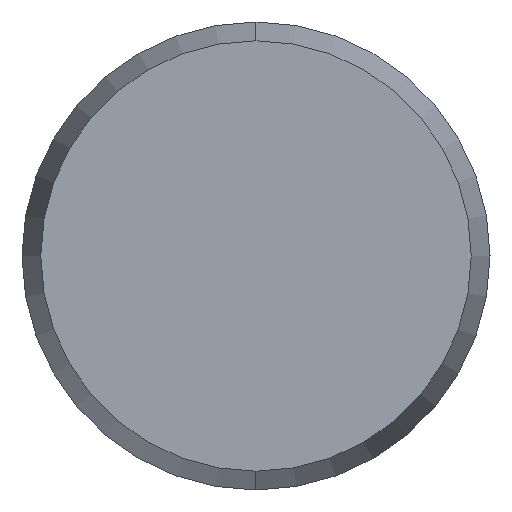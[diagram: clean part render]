
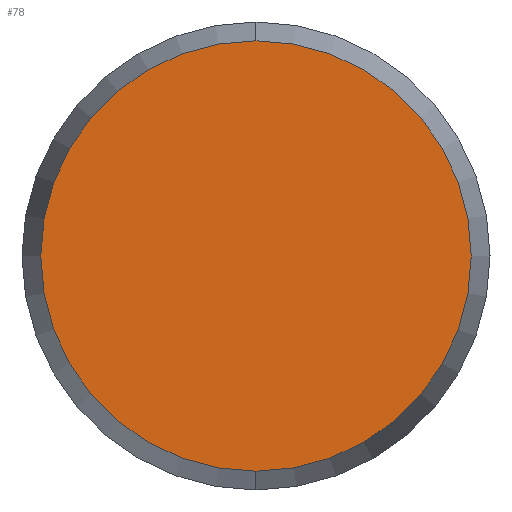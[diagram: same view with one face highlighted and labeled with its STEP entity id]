
A CAD part, left-side view. The second image highlights one B-rep face of the part: STEP entity #78.
In plain terms, the highlighted planar face has unit normal (-1, 0, 0).
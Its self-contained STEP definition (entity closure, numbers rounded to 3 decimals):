
#34 = CIRCLE ( 'NONE', #144, 4.598 ) ;
#63 = EDGE_CURVE ( 'NONE', #64, #65, #34, .T. ) ;
#64 = VERTEX_POINT ( 'NONE', #140 ) ;
#65 = VERTEX_POINT ( 'NONE', #139 ) ;
#78 = ADVANCED_FACE ( 'NONE', ( #122 ), #121, .F. ) ;
#79 = EDGE_LOOP ( 'NONE', ( #80, #81 ) ) ;
#80 = ORIENTED_EDGE ( 'NONE', *, *, #63, .F. ) ;
#81 = ORIENTED_EDGE ( 'NONE', *, *, #106, .F. ) ;
#106 = EDGE_CURVE ( 'NONE', #65, #64, #275, .T. ) ;
#116 = DIRECTION ( 'NONE',  ( 0., 0., -1. ) ) ;
#117 = DIRECTION ( 'NONE',  ( 1., 0., 0. ) ) ;
#118 = CARTESIAN_POINT ( 'NONE',  ( -16., 0., 0. ) ) ;
#120 = AXIS2_PLACEMENT_3D ( 'NONE', #118, #117, #116 ) ;
#121 = PLANE ( 'NONE',  #120 ) ;
#122 = FACE_OUTER_BOUND ( 'NONE', #79, .T. ) ;
#139 = CARTESIAN_POINT ( 'NONE',  ( -16., 0., -4.598 ) ) ;
#140 = CARTESIAN_POINT ( 'NONE',  ( -16., 0., 4.598 ) ) ;
#141 = DIRECTION ( 'NONE',  ( 0., 0., -1. ) ) ;
#142 = DIRECTION ( 'NONE',  ( 1., 0., 0. ) ) ;
#143 = CARTESIAN_POINT ( 'NONE',  ( -16., 0., 0. ) ) ;
#144 = AXIS2_PLACEMENT_3D ( 'NONE', #143, #142, #141 ) ;
#166 = CARTESIAN_POINT ( 'NONE',  ( -16., 0., 0. ) ) ;
#272 = DIRECTION ( 'NONE',  ( 0., 0., -1. ) ) ;
#273 = DIRECTION ( 'NONE',  ( 1., 0., 0. ) ) ;
#274 = AXIS2_PLACEMENT_3D ( 'NONE', #166, #273, #272 ) ;
#275 = CIRCLE ( 'NONE', #274, 4.598 ) ;
